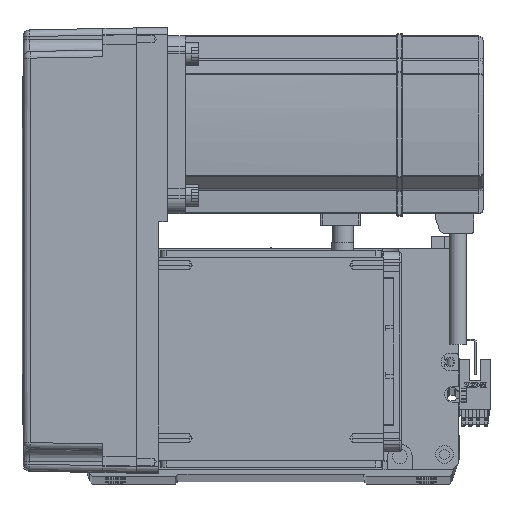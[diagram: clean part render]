
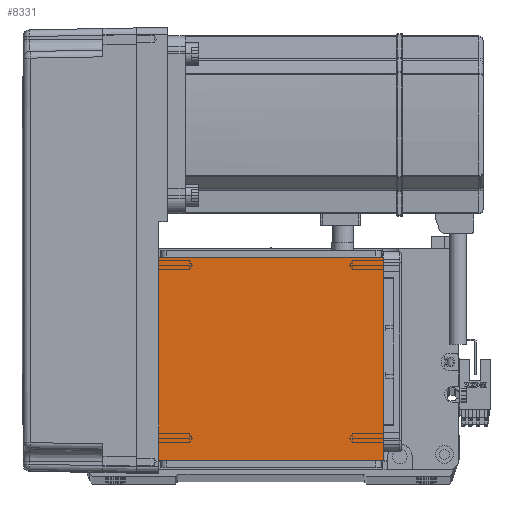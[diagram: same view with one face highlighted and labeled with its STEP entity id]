
A CAD part, top view. The second image highlights one B-rep face of the part: STEP entity #8331.
In plain terms, the highlighted planar face has unit normal (0, 0, 1).
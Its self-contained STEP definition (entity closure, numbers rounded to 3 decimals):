
#646 = VECTOR ( 'NONE', #13337, 1000. ) ;
#1998 = DIRECTION ( 'NONE',  ( 1., 0., 0. ) ) ;
#2764 = EDGE_CURVE ( 'NONE', #21856, #22383, #48388, .T. ) ;
#6989 = DIRECTION ( 'NONE',  ( 0., 0., 1. ) ) ;
#7916 = ORIENTED_EDGE ( 'NONE', *, *, #17835, .T. ) ;
#8331 = ADVANCED_FACE ( 'NONE', ( #29893 ), #35522, .T. ) ;
#9369 = DIRECTION ( 'NONE',  ( 1., 0., 0. ) ) ;
#11357 = CARTESIAN_POINT ( 'NONE',  ( 0., 0., 115. ) ) ;
#13297 = CARTESIAN_POINT ( 'NONE',  ( 50.5, 20., 115. ) ) ;
#13337 = DIRECTION ( 'NONE',  ( 0., 1., 0. ) ) ;
#14632 = EDGE_CURVE ( 'NONE', #51569, #26937, #48738, .T. ) ;
#17802 = VECTOR ( 'NONE', #21396, 1000. ) ;
#17835 = EDGE_CURVE ( 'NONE', #21856, #26937, #37163, .T. ) ;
#18053 = CARTESIAN_POINT ( 'NONE',  ( -70.004, 111.5, 115. ) ) ;
#18107 = CARTESIAN_POINT ( 'NONE',  ( 50.5, 122., 115. ) ) ;
#21396 = DIRECTION ( 'NONE',  ( 0., -1., 0. ) ) ;
#21856 = VERTEX_POINT ( 'NONE', #13297 ) ;
#22383 = VERTEX_POINT ( 'NONE', #31600 ) ;
#26197 = ORIENTED_EDGE ( 'NONE', *, *, #2764, .F. ) ;
#26937 = VERTEX_POINT ( 'NONE', #57460 ) ;
#29893 = FACE_OUTER_BOUND ( 'NONE', #44846, .T. ) ;
#30804 = AXIS2_PLACEMENT_3D ( 'NONE', #11357, #6989, #1998 ) ;
#31279 = CARTESIAN_POINT ( 'NONE',  ( -50.5, 111.5, 115. ) ) ;
#31600 = CARTESIAN_POINT ( 'NONE',  ( -50.5, 20., 115. ) ) ;
#32029 = LINE ( 'NONE', #40603, #17802 ) ;
#34383 = DIRECTION ( 'NONE',  ( -1., 0., 0. ) ) ;
#35522 = PLANE ( 'NONE',  #30804 ) ;
#37163 = LINE ( 'NONE', #18107, #646 ) ;
#40603 = CARTESIAN_POINT ( 'NONE',  ( -50.5, 122., 115. ) ) ;
#40865 = VECTOR ( 'NONE', #34383, 1000. ) ;
#41061 = ORIENTED_EDGE ( 'NONE', *, *, #45999, .T. ) ;
#42666 = VECTOR ( 'NONE', #9369, 1000. ) ;
#44846 = EDGE_LOOP ( 'NONE', ( #61616, #41061, #26197, #7916 ) ) ;
#45999 = EDGE_CURVE ( 'NONE', #51569, #22383, #32029, .T. ) ;
#48388 = LINE ( 'NONE', #49220, #40865 ) ;
#48738 = LINE ( 'NONE', #18053, #42666 ) ;
#49220 = CARTESIAN_POINT ( 'NONE',  ( -70.004, 20., 115. ) ) ;
#51569 = VERTEX_POINT ( 'NONE', #31279 ) ;
#57460 = CARTESIAN_POINT ( 'NONE',  ( 50.5, 111.5, 115. ) ) ;
#61616 = ORIENTED_EDGE ( 'NONE', *, *, #14632, .F. ) ;
